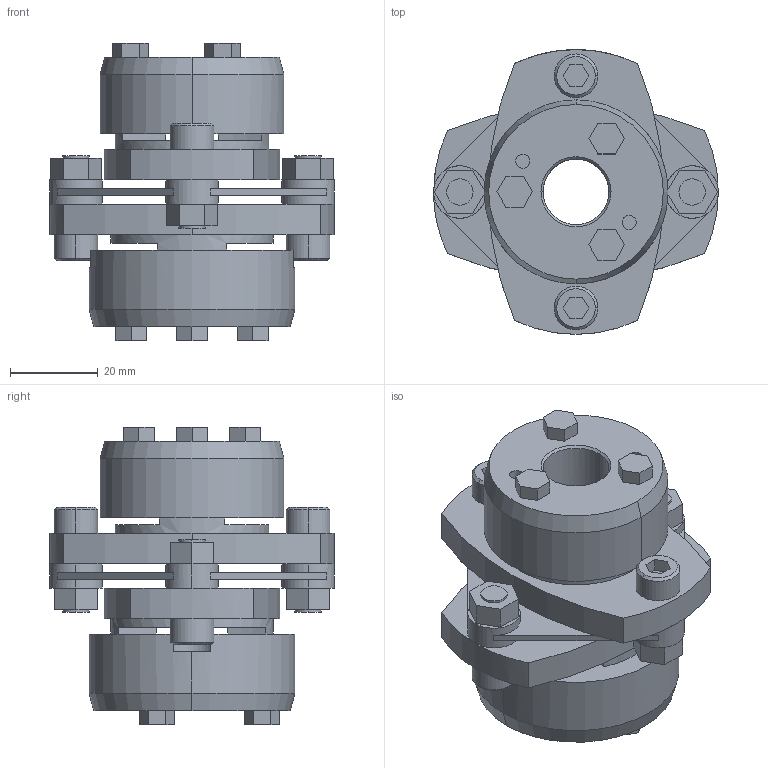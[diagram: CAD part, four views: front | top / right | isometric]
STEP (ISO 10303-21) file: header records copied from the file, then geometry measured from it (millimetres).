
FILE_DESCRIPTION((''),'2;1');
FILE_NAME('LCS-65T7-15×19.stp','2011-08-23T13:13:02',(''),(''),'AutoCAD STEP 2000i','AutoCAD 2000i',', , ');
FILE_SCHEMA(('CONFIG_CONTROL_DESIGN'));
Length unit declared in the file: millimetre
Products named in the file (7): LCS-65T7-15×19; 忣兜1; LC65T7-T019; LC65T7-T017; LC65T7-T015-1; LC65T7-T015; LCS65-ITA
Assembly tree (6 placements, depth 2):
  LCS-65T7-15×19
    忣兜1
    LC65T7-T019
    LC65T7-T017
    LC65T7-T015-1
    LC65T7-T015
    LCS65-ITA
Bounding box: 65 x 65 x 67.9 mm (x, y, z)
Volume: 86480.9 mm3; surface area: 29161.3 mm2
Topology: 1 solids, 1 shells, 224 faces, 575 edges, 375 vertices
Faces by surface type: plane 134, cylinder 70, cone 20
Entity records: 7037 total; most frequent: DIRECTION 1240, CARTESIAN_POINT 1181, ORIENTED_EDGE 1150, EDGE_CURVE 575, AXIS2_PLACEMENT_3D 434, VERTEX_POINT 375, VECTOR 372, LINE 372
